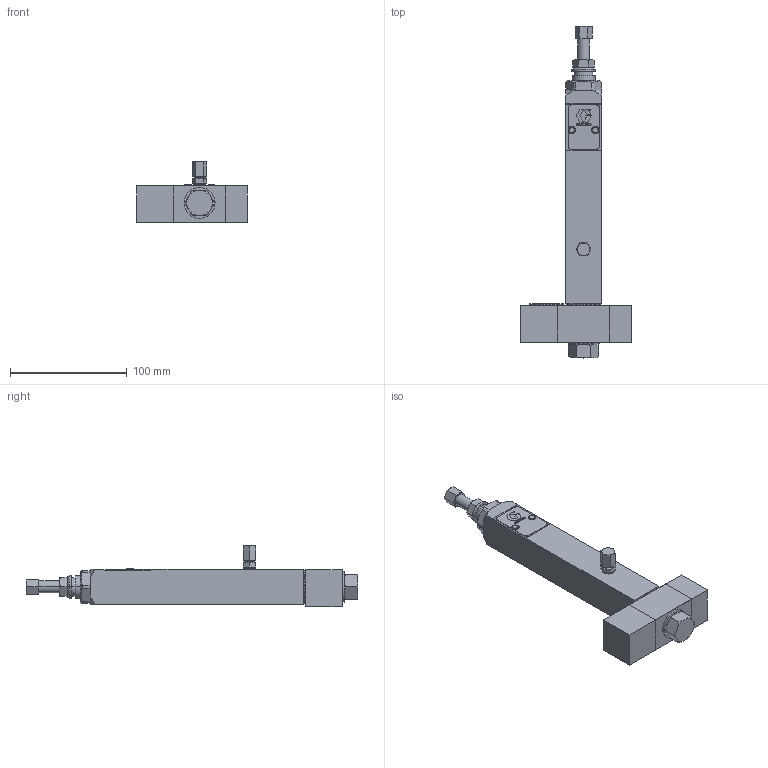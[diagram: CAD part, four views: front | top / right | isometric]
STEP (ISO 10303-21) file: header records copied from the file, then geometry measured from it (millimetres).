
FILE_DESCRIPTION((''),'2;1');
FILE_NAME('24X811-EN-W_PRT','2023-12-18T08:41:51',('qtmwp1'),(''),'CREO PARAMETRIC BY PTC INC, 2021072','CREO PARAMETRIC BY PTC INC, 2021072','');
FILE_SCHEMA(('CONFIG_CONTROL_DESIGN'));
Length unit declared in the file: inch
Products named in the file (1): 24X811-EN-W_PRT
Bounding box: 94.8 x 284.92 x 52.8 mm (x, y, z)
Surface area: 54796.1 mm2 (no closed solid volume)
Topology: 0 solids, 31 shells, 186 faces, 510 edges, 353 vertices
Faces by surface type: plane 97, cone 47, cylinder 38, bspline 4
Entity records: 7026 total; most frequent: CARTESIAN_POINT 2570, DIRECTION 863, ORIENTED_EDGE 863, EDGE_CURVE 510, VERTEX_POINT 353, AXIS2_PLACEMENT_3D 308, VECTOR 247, LINE 247
